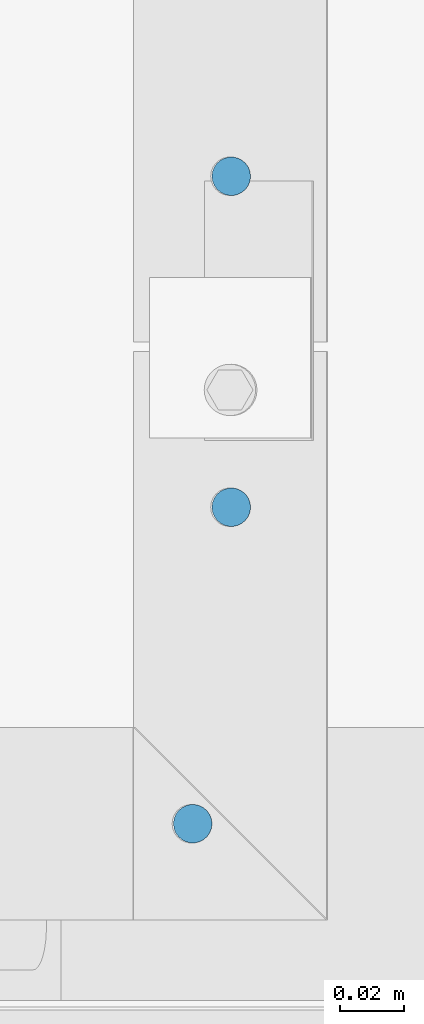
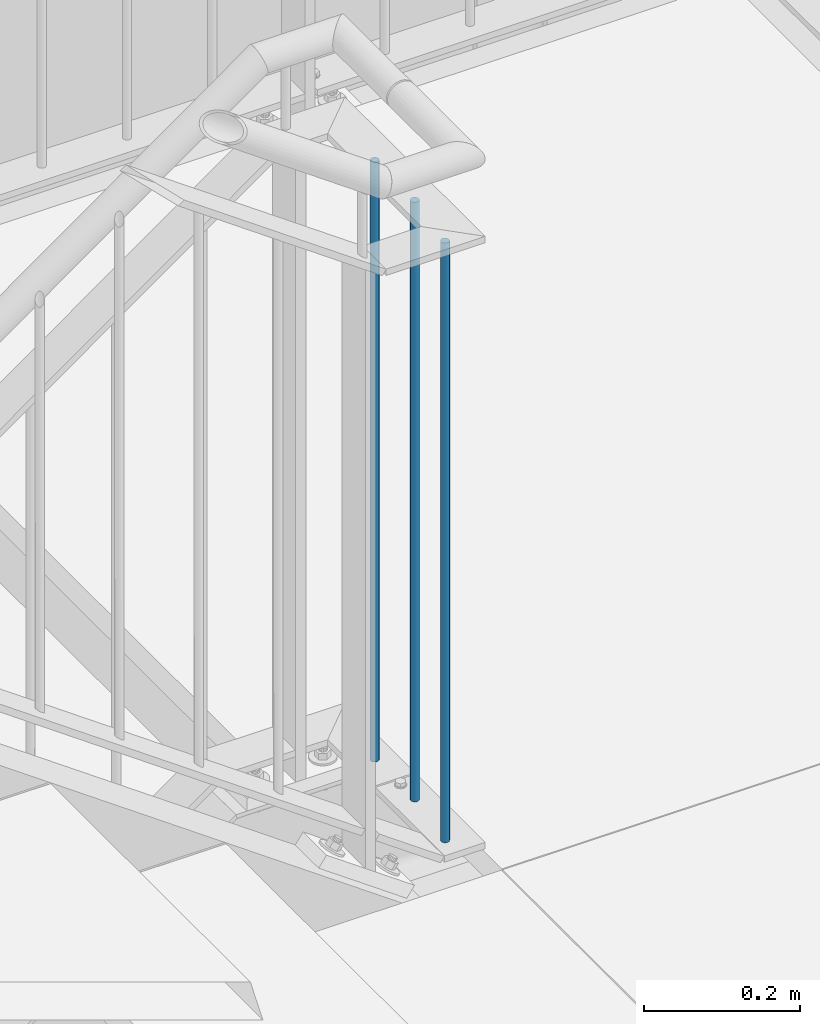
# One storey, part 97 of 831: 3 columns.
"""IFC2X3 building model written with IfcOpenShell, lengths in millimetres."""

from ifc_helpers import new_model, entity, si_unit, converted_unit, frame, origin, origin_with_axes, origin_2d, place, context, project, spatial, circle, extrude, material, element, save


model = new_model("IFC2X3")

# Units and contexts
model_context = context("Model", 3, precision=1e-09, world=origin_with_axes())
ifc_project = project(units=[si_unit("LENGTHUNIT", "METRE", prefix="MILLI"), si_unit("AREAUNIT", "SQUARE_METRE"), si_unit("VOLUMEUNIT", "CUBIC_METRE"), converted_unit("PLANEANGLEUNIT", "DEGREE", entity("IfcPlaneAngleMeasure", 0.01745329), si_unit("PLANEANGLEUNIT", "RADIAN"), dimensions=[0, 0, 0, 0, 0, 0, 0])], contexts=[model_context])

# Site, building, storey
site_placement = place(None, origin_with_axes())
site = spatial("IfcSite", under=ifc_project, at=site_placement, Name="Site", CompositionType="ELEMENT")
building_placement = place(site_placement, origin_with_axes())
building = spatial("IfcBuilding", under=site, at=building_placement, Name="Struktur 1", CompositionType="ELEMENT")
storey_placement = place(building_placement, origin_with_axes())
storey = spatial("IfcBuildingStorey", under=building, at=storey_placement, Name="Default Storey", CompositionType="ELEMENT", Elevation=0.0)

# Columns
ifc_material = material(Name="S235JR")
for number, where, z_axis, x_axis, name in (
    (1, (7674.536342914, 5791.736971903, 3189.8526312), (0.0, 0.0, 1.0), (-1.0, 0.0, 0.0), "Railing_Picket_Stair#0"),
    (2, (7686.536342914, 5890.236971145, 3189.8526312), (0.0, 0.0, 1.0), (-1.0, 0.0, 0.0), "Railing_Picket_Stair#0"),
    (3, (7686.536342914, 5993.236971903, 3189.8526312), (0.0, 0.0, 1.0), (-1.0, 0.0, 0.0), "Railing_Picket_Stair#0"),
):
    element("IfcColumn", number, at=place(None, frame(where, z_axis=z_axis, x_axis=x_axis)), inside=storey, material=ifc_material, Name=name, ObjectType="Railing_Picket_Stair#0", context=model_context, shape_type="SweptSolid", body=[
        extrude(circle(Radius=6.0, at=origin_2d()), origin(), (0.0, 0.0, -1.0), 938.8),
    ])

save(model, "model.ifc")
